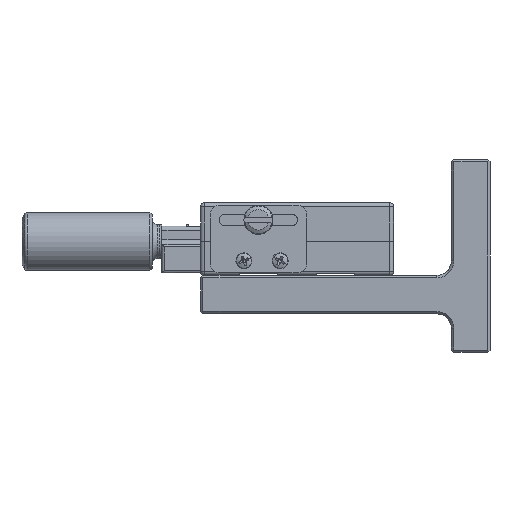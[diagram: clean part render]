
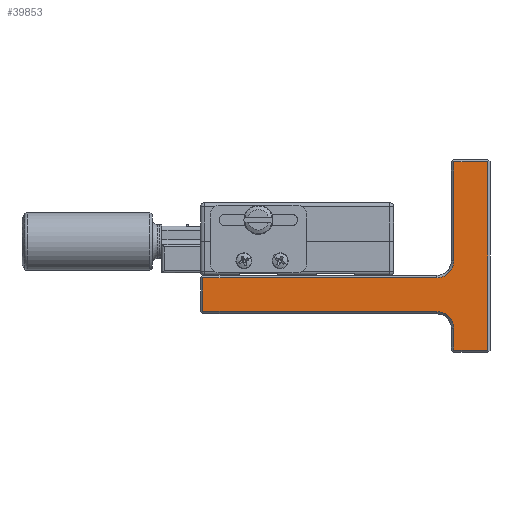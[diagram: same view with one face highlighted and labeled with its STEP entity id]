
A CAD part, left-side view. The second image highlights one B-rep face of the part: STEP entity #39853.
In plain terms, the highlighted planar face has unit normal (-1, 0, 0).
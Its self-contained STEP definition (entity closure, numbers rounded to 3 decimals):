
#186 = DIRECTION ( 'NONE',  ( 0., 0., -1. ) ) ;
#338 = VERTEX_POINT ( 'NONE', #1747 ) ;
#688 = ORIENTED_EDGE ( 'NONE', *, *, #7181, .T. ) ;
#877 = CARTESIAN_POINT ( 'NONE',  ( -21.251, 28.63, 0. ) ) ;
#1672 = EDGE_CURVE ( 'NONE', #37952, #10549, #24215, .T. ) ;
#1747 = CARTESIAN_POINT ( 'NONE',  ( -21.251, -19.87, 0. ) ) ;
#1880 = DIRECTION ( 'NONE',  ( 1., 0., 0. ) ) ;
#1942 = EDGE_CURVE ( 'NONE', #42162, #39991, #16948, .T. ) ;
#2078 = VECTOR ( 'NONE', #31522, 1000. ) ;
#2486 = CARTESIAN_POINT ( 'NONE',  ( -21.251, 28.63, -7. ) ) ;
#2681 = CARTESIAN_POINT ( 'NONE',  ( -21.251, -19.87, 3.5 ) ) ;
#2936 = EDGE_CURVE ( 'NONE', #30406, #20088, #15316, .T. ) ;
#3275 = ORIENTED_EDGE ( 'NONE', *, *, #2936, .T. ) ;
#3328 = CARTESIAN_POINT ( 'NONE',  ( -21.251, -30.37, 24. ) ) ;
#4029 = ORIENTED_EDGE ( 'NONE', *, *, #1942, .T. ) ;
#4793 = EDGE_CURVE ( 'NONE', #22278, #41189, #25613, .T. ) ;
#5124 = FACE_OUTER_BOUND ( 'NONE', #42545, .T. ) ;
#6533 = VECTOR ( 'NONE', #36161, 1000. ) ;
#6587 = ORIENTED_EDGE ( 'NONE', *, *, #1672, .T. ) ;
#6615 = VECTOR ( 'NONE', #18686, 1000. ) ;
#6827 = CARTESIAN_POINT ( 'NONE',  ( -21.251, -19.87, 0. ) ) ;
#6856 = CARTESIAN_POINT ( 'NONE',  ( -21.251, 28.63, 3.5 ) ) ;
#7181 = EDGE_CURVE ( 'NONE', #11461, #42162, #21840, .T. ) ;
#7911 = AXIS2_PLACEMENT_3D ( 'NONE', #13660, #36771, #17004 ) ;
#8031 = VECTOR ( 'NONE', #20174, 1000. ) ;
#8370 = ORIENTED_EDGE ( 'NONE', *, *, #4793, .T. ) ;
#9630 = DIRECTION ( 'NONE',  ( 1., 0., 0. ) ) ;
#9982 = CARTESIAN_POINT ( 'NONE',  ( -21.251, -19.87, -15. ) ) ;
#10216 = VECTOR ( 'NONE', #186, 1000. ) ;
#10549 = VERTEX_POINT ( 'NONE', #3328 ) ;
#11461 = VERTEX_POINT ( 'NONE', #31679 ) ;
#13660 = CARTESIAN_POINT ( 'NONE',  ( -21.251, -19.87, 3.5 ) ) ;
#15316 = LINE ( 'NONE', #39290, #6533 ) ;
#16059 = CARTESIAN_POINT ( 'NONE',  ( -21.251, -30.37, 3.5 ) ) ;
#16465 = CARTESIAN_POINT ( 'NONE',  ( -21.251, -30.37, -15. ) ) ;
#16948 = LINE ( 'NONE', #23337, #10216 ) ;
#17004 = DIRECTION ( 'NONE',  ( 0., 0., -1. ) ) ;
#18375 = CARTESIAN_POINT ( 'NONE',  ( -21.251, -19.87, -7. ) ) ;
#18686 = DIRECTION ( 'NONE',  ( 0., 0., 1. ) ) ;
#19337 = AXIS2_PLACEMENT_3D ( 'NONE', #2681, #9630, #32750 ) ;
#19490 = PLANE ( 'NONE',  #19337 ) ;
#19558 = EDGE_CURVE ( 'NONE', #10549, #30406, #20163, .T. ) ;
#20088 = VERTEX_POINT ( 'NONE', #32058 ) ;
#20163 = LINE ( 'NONE', #38724, #37717 ) ;
#20174 = DIRECTION ( 'NONE',  ( 0., 0., -1. ) ) ;
#20252 = CARTESIAN_POINT ( 'NONE',  ( -21.251, -23.37, 24. ) ) ;
#21733 = CARTESIAN_POINT ( 'NONE',  ( -21.251, -19.87, -10.5 ) ) ;
#21840 = CIRCLE ( 'NONE', #24393, 3.5 ) ;
#22278 = VERTEX_POINT ( 'NONE', #877 ) ;
#23012 = VECTOR ( 'NONE', #33114, 1000. ) ;
#23337 = CARTESIAN_POINT ( 'NONE',  ( -21.251, -23.37, 3.5 ) ) ;
#24215 = LINE ( 'NONE', #16059, #6615 ) ;
#24393 = AXIS2_PLACEMENT_3D ( 'NONE', #21733, #1880, #25034 ) ;
#24792 = ORIENTED_EDGE ( 'NONE', *, *, #41512, .T. ) ;
#25034 = DIRECTION ( 'NONE',  ( 0., 0., -1. ) ) ;
#25613 = LINE ( 'NONE', #6856, #8031 ) ;
#26131 = LINE ( 'NONE', #6827, #35957 ) ;
#26208 = CARTESIAN_POINT ( 'NONE',  ( -21.251, -23.37, -10.5 ) ) ;
#26407 = CARTESIAN_POINT ( 'NONE',  ( -21.251, -23.37, -15. ) ) ;
#26441 = EDGE_CURVE ( 'NONE', #338, #22278, #26131, .T. ) ;
#28923 = DIRECTION ( 'NONE',  ( 0., 1., 0. ) ) ;
#29508 = LINE ( 'NONE', #18375, #2078 ) ;
#29955 = DIRECTION ( 'NONE',  ( 0., 1., 0. ) ) ;
#30406 = VERTEX_POINT ( 'NONE', #20252 ) ;
#31293 = ORIENTED_EDGE ( 'NONE', *, *, #26441, .T. ) ;
#31522 = DIRECTION ( 'NONE',  ( 0., -1., 0. ) ) ;
#31679 = CARTESIAN_POINT ( 'NONE',  ( -21.251, -19.87, -7. ) ) ;
#32058 = CARTESIAN_POINT ( 'NONE',  ( -21.251, -23.37, 3.5 ) ) ;
#32750 = DIRECTION ( 'NONE',  ( 0., 0., -1. ) ) ;
#33114 = DIRECTION ( 'NONE',  ( 0., -1., 0. ) ) ;
#35505 = EDGE_CURVE ( 'NONE', #39991, #37952, #41520, .T. ) ;
#35957 = VECTOR ( 'NONE', #29955, 1000. ) ;
#36161 = DIRECTION ( 'NONE',  ( 0., 0., -1. ) ) ;
#36771 = DIRECTION ( 'NONE',  ( 1., 0., 0. ) ) ;
#37717 = VECTOR ( 'NONE', #28923, 1000. ) ;
#37952 = VERTEX_POINT ( 'NONE', #16465 ) ;
#38023 = ORIENTED_EDGE ( 'NONE', *, *, #19558, .T. ) ;
#38628 = EDGE_CURVE ( 'NONE', #20088, #338, #40296, .T. ) ;
#38724 = CARTESIAN_POINT ( 'NONE',  ( -21.251, -19.87, 24. ) ) ;
#39290 = CARTESIAN_POINT ( 'NONE',  ( -21.251, -23.37, 3.5 ) ) ;
#39853 = ADVANCED_FACE ( 'NONE', ( #5124 ), #19490, .F. ) ;
#39991 = VERTEX_POINT ( 'NONE', #26407 ) ;
#40063 = ORIENTED_EDGE ( 'NONE', *, *, #35505, .T. ) ;
#40108 = ORIENTED_EDGE ( 'NONE', *, *, #38628, .T. ) ;
#40296 = CIRCLE ( 'NONE', #7911, 3.5 ) ;
#41189 = VERTEX_POINT ( 'NONE', #2486 ) ;
#41512 = EDGE_CURVE ( 'NONE', #41189, #11461, #29508, .T. ) ;
#41520 = LINE ( 'NONE', #9982, #23012 ) ;
#42162 = VERTEX_POINT ( 'NONE', #26208 ) ;
#42545 = EDGE_LOOP ( 'NONE', ( #40108, #31293, #8370, #24792, #688, #4029, #40063, #6587, #38023, #3275 ) ) ;
